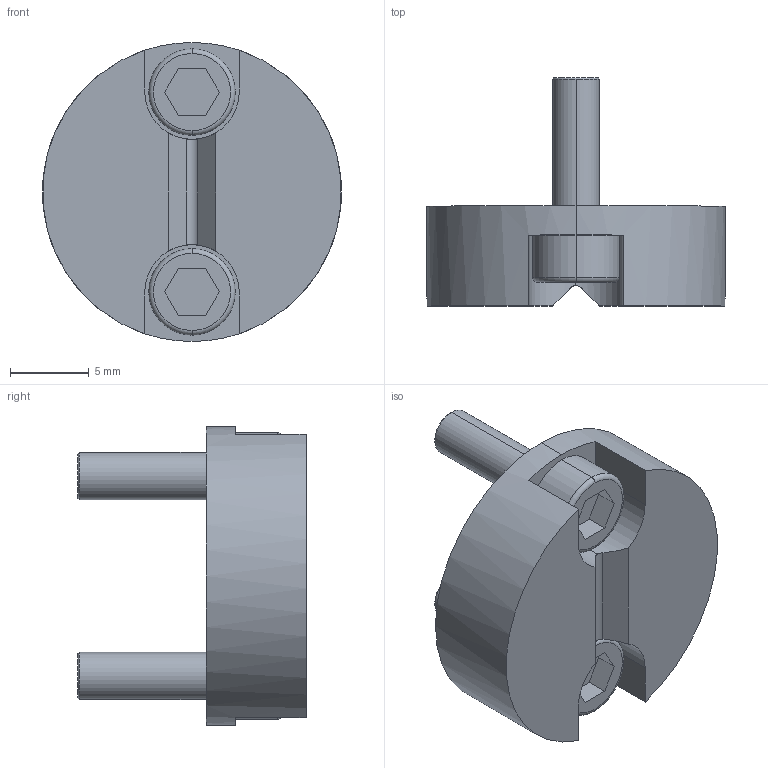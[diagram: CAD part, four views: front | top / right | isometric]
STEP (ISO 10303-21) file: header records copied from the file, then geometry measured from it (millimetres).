
FILE_DESCRIPTION (( 'STEP AP214' ), '1' );
FILE_NAME ('BruyRubio_BR1893__19.STEP', '2021-12-14T11:29:21', ( '' ), ( '' ), 'SwSTEP 2.0', 'SolidWorks 2018', '' );
FILE_SCHEMA (( 'AUTOMOTIVE_DESIGN' ));
Length unit declared in the file: millimetre
Products named in the file (1): BruyRubio_BR1893__19
Bounding box: 19 x 14.5 x 19 mm (x, y, z)
Volume: 1722.5 mm3; surface area: 1382.9 mm2
Topology: 1 solids, 1 shells, 57 faces, 133 edges, 86 vertices
Faces by surface type: plane 31, cylinder 18, cone 4, torus 4
Entity records: 2000 total; most frequent: CARTESIAN_POINT 308, DIRECTION 293, ORIENTED_EDGE 266, EDGE_CURVE 133, AXIS2_PLACEMENT_3D 109, VERTEX_POINT 86, VECTOR 75, LINE 75
